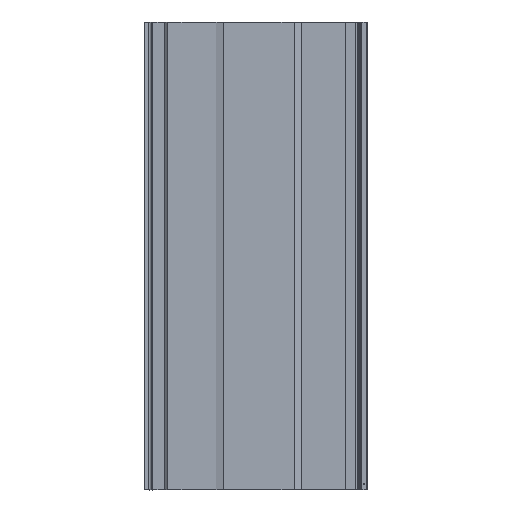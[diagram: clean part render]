
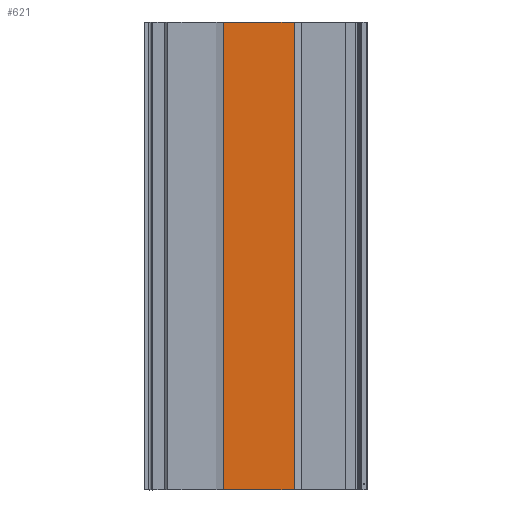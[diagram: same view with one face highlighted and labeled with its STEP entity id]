
A CAD part, front view. The second image highlights one B-rep face of the part: STEP entity #621.
In plain terms, the highlighted planar face has unit normal (0, -1, 0).
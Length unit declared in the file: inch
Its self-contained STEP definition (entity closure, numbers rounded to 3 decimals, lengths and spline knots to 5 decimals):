
#14 = LINE ( 'NONE', #1820, #519 ) ;
#70 = CARTESIAN_POINT ( 'NONE',  ( -3.12672, -0.0125, 78.74016 ) ) ;
#175 = DIRECTION ( 'NONE',  ( 0., 0., -1. ) ) ;
#177 = EDGE_CURVE ( 'NONE', #880, #1015, #1416, .T. ) ;
#250 = FACE_OUTER_BOUND ( 'NONE', #1087, .T. ) ;
#314 = CARTESIAN_POINT ( 'NONE',  ( 3.12672, -0.0125, 41.30666 ) ) ;
#355 = VECTOR ( 'NONE', #175, 39.37008 ) ;
#367 = CARTESIAN_POINT ( 'NONE',  ( -3.12672, -0.0125, 0. ) ) ;
#389 = CARTESIAN_POINT ( 'NONE',  ( -3.125, -0.0125, 78.74016 ) ) ;
#511 = DIRECTION ( 'NONE',  ( -1., 0., 0. ) ) ;
#519 = VECTOR ( 'NONE', #785, 39.37008 ) ;
#558 = DIRECTION ( 'NONE',  ( 0., 0., 1. ) ) ;
#590 = CARTESIAN_POINT ( 'NONE',  ( -3.12672, -0.0125, 41.30666 ) ) ;
#621 = ADVANCED_FACE ( 'NONE', ( #250 ), #1065, .F. ) ;
#737 = VERTEX_POINT ( 'NONE', #1093 ) ;
#785 = DIRECTION ( 'NONE',  ( 1., 0., 0. ) ) ;
#792 = AXIS2_PLACEMENT_3D ( 'NONE', #389, #1589, #558 ) ;
#802 = EDGE_CURVE ( 'NONE', #1015, #737, #14, .T. ) ;
#805 = LINE ( 'NONE', #846, #355 ) ;
#846 = CARTESIAN_POINT ( 'NONE',  ( 3.12672, -0.0125, 78.74016 ) ) ;
#859 = ORIENTED_EDGE ( 'NONE', *, *, #1132, .F. ) ;
#880 = VERTEX_POINT ( 'NONE', #590 ) ;
#955 = VECTOR ( 'NONE', #1962, 39.37008 ) ;
#1015 = VERTEX_POINT ( 'NONE', #367 ) ;
#1065 = PLANE ( 'NONE',  #792 ) ;
#1087 = EDGE_LOOP ( 'NONE', ( #859, #1288, #1425, #1168 ) ) ;
#1093 = CARTESIAN_POINT ( 'NONE',  ( 3.12672, -0.0125, 0. ) ) ;
#1132 = EDGE_CURVE ( 'NONE', #2140, #737, #805, .T. ) ;
#1168 = ORIENTED_EDGE ( 'NONE', *, *, #802, .T. ) ;
#1201 = CARTESIAN_POINT ( 'NONE',  ( 18.05059, -0.0125, 41.30666 ) ) ;
#1288 = ORIENTED_EDGE ( 'NONE', *, *, #1883, .T. ) ;
#1337 = LINE ( 'NONE', #1201, #1356 ) ;
#1356 = VECTOR ( 'NONE', #511, 39.37008 ) ;
#1416 = LINE ( 'NONE', #70, #955 ) ;
#1425 = ORIENTED_EDGE ( 'NONE', *, *, #177, .T. ) ;
#1589 = DIRECTION ( 'NONE',  ( 0., 1., 0. ) ) ;
#1820 = CARTESIAN_POINT ( 'NONE',  ( -3.125, -0.0125, 0. ) ) ;
#1883 = EDGE_CURVE ( 'NONE', #2140, #880, #1337, .T. ) ;
#1962 = DIRECTION ( 'NONE',  ( 0., 0., -1. ) ) ;
#2140 = VERTEX_POINT ( 'NONE', #314 ) ;
